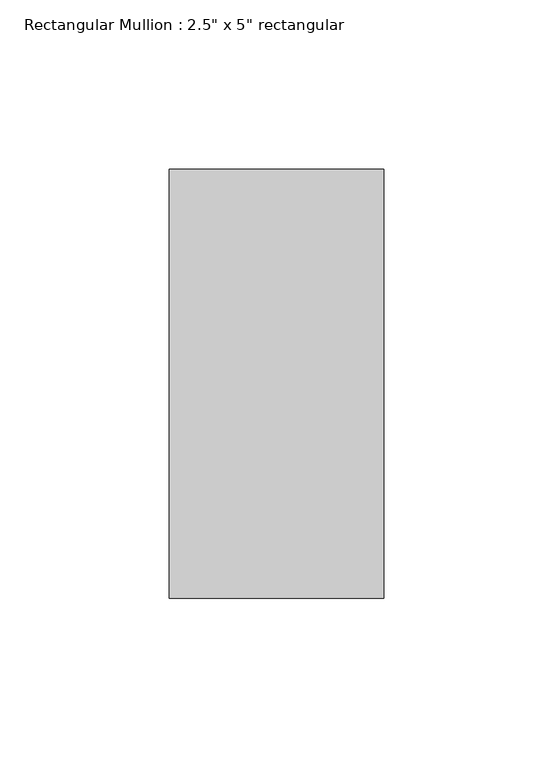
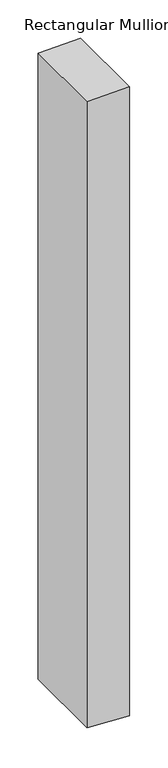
"""IFC4 building model written with IfcOpenShell, lengths in millimetres: member geometry."""

from ifc_helpers import new_model, si_unit, frame, origin, place, context, project, spatial, polyline, outline, extrude, source, transform, mapped, element, save


def member_453e99e5(model_context):
    return source(origin(), model_context, "Body", "SweptSolid", [
        extrude(outline(polyline([(0.0, 0.0), (-1.1154894, -63.5), (-994.623873, -63.5), (-997.5331016, 0.0), (0.0, 0.0)])), frame((0.0, -63.5, 0.0), z_axis=(0.0, 1.0, 0.0), x_axis=(0.0, 0.0, 1.0)), (0.0, 0.0, 1.0), 127.0),
    ])


if __name__ == "__main__":
    model = new_model("IFC4")
    model_context = context("Model", 3, world=origin())
    ifc_project = project(units=[si_unit("LENGTHUNIT", "METRE", prefix="MILLI")], contexts=[model_context])
    site = spatial("IfcSite", under=ifc_project)
    building = spatial("IfcBuilding", under=site)
    placement = place(None, origin())
    member_shape = member_453e99e5(model_context)
    element("IfcMember", 1, ObjectType="Rectangular Mullion : 2.5\" x 5\" rectangular", at=placement, inside=building, context=model_context, shape_type="MappedRepresentation", body=[
        mapped(member_shape, transform((0.0, 0.0, 0.0), x_axis=(1.0, 0.0, 0.0), y_axis=(0.0, 1.0, 0.0), z_axis=(0.0, 0.0, 1.0))),
    ])
    save(model, "model.ifc")
